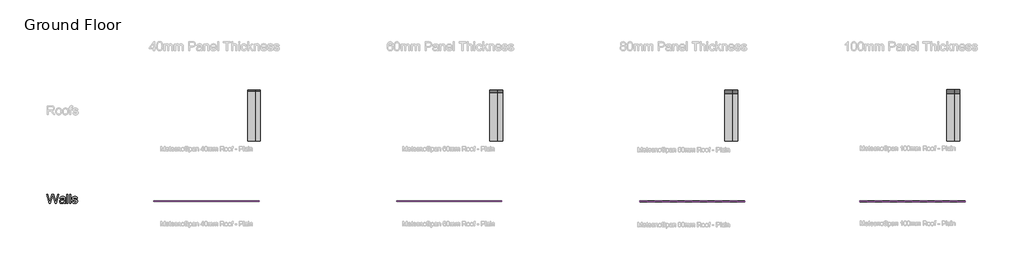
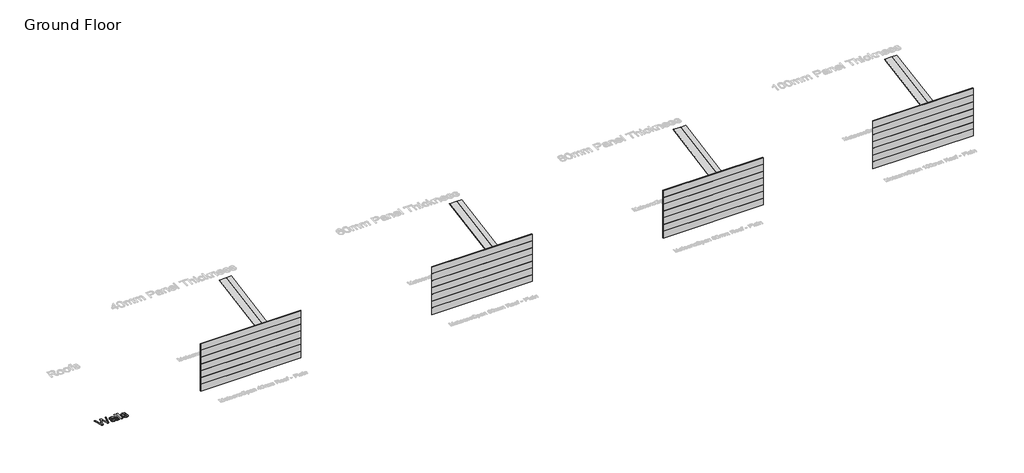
# One storey, part 1 of 14: 36 plates, 1 proxy.
"""IFC4 building model written with IfcOpenShell, lengths in millimetres."""

from ifc_helpers import new_model, si_unit, origin, origin_with_axes, place, context, project, spatial, polyline, outline, extrude, transform, mapped, element, save
from components import system_panel_feab0dc7, system_panel_a265e2d0, system_panel_77eb090d, system_panel_3f59478d, system_panel_bf3a755d, system_panel_f6465c84, system_panel_ab85e6cc, system_panel_8b37a0bf, system_panel_d7c5dccb, system_panel_d82ac72a, system_panel_2c778e41, system_panel_568c220c

model = new_model("IFC4")

# Units and contexts
model_context = context("Model", 3, world=origin())
ifc_project = project(units=[si_unit("LENGTHUNIT", "METRE", prefix="MILLI")], contexts=[model_context])

# Site, building, storey
site = spatial("IfcSite", under=ifc_project)
building = spatial("IfcBuilding", under=site)
storey = spatial("IfcBuildingStorey", under=building, Name="Ground Floor", Elevation=0.0)

# Proxy
placement = place(None, origin())
element("IfcBuildingElementProxy", 1, Name="1200mm Arial", ObjectType="1200mm Arial", at=placement, inside=storey, context=model_context, shape_type="SweptSolid", body=[
    extrude(outline(polyline([(-35465.9511173, -12241.0070776), (-35794.6904682, -11035.5313559), (-35639.2971135, -11035.5313559), (-35448.5870872, -11827.8020207), (-35389.7259679, -12072.3699711), (-35326.7445703, -11856.0553579), (-35087.7684263, -11035.5313559), (-34863.8018676, -11035.5313559), (-34690.1615659, -11630.3229657), (-34650.5222809, -11740.6139878), (-34615.7758265, -11851.0521628), (-34585.9222026, -11961.6374905), (-34560.9614092, -12072.3699711), (-34503.8661235, -11834.865355), (-34311.3902637, -11035.5313559), (-34155.9969089, -11035.5313559), (-34485.0305654, -12241.0070776), (-34646.0157265, -12241.0070776), (-34935.0238219, -11311.0013938), (-34975.3436886, -11181.2126259), (-35020.6667504, -11337.4888975), (-35284.0702589, -12241.0070776), (-35465.9511173, -12241.0070776)])), origin_with_axes(), (0.0, 0.0, 1.0), 20.0),
    extrude(outline(polyline([(-33459.0812572, -12127.9937287), (-33494.811796, -12161.5261726), (-33531.0757637, -12189.7243275), (-33567.8731603, -12212.5881935), (-33605.2039857, -12230.1177706), (-33643.4913044, -12243.1223991), (-33683.1581805, -12252.4114195), (-33724.2046141, -12257.9848317), (-33766.6306052, -12259.8426358), (-33833.7230841, -12255.3728696), (-33892.5566122, -12241.9635708), (-33943.1311894, -12219.6147396), (-33985.4468159, -12188.3263759), (-34018.8596981, -12150.0850425), (-34042.7260426, -12106.8773022), (-34057.0458492, -12058.7031549), (-34061.8191181, -12005.5626007), (-34060.0164964, -11973.6120495), (-34054.608631, -11943.096238), (-34045.5955221, -11914.0151662), (-34032.9771697, -11886.3688343), (-34017.4249584, -11860.7642474), (-33999.6102727, -11837.8084109), (-33979.5331129, -11817.5013248), (-33957.1934787, -11799.842989), (-33907.3454684, -11771.1481934), (-33851.6849225, -11750.3996489), (-33797.4591164, -11738.8481542), (-33721.3075434, -11727.738118), (-33567.2385638, -11703.8993647), (-33507.7520452, -11690.4348837), (-33459.964174, -11675.9403331), (-33459.0812572, -11642.3894951), (-33461.6748253, -11605.858813), (-33469.4555295, -11575.1406664), (-33482.4233698, -11550.2350553), (-33500.5783463, -11531.1419798), (-33531.9586805, -11512.0856924), (-33570.1816198, -11498.4740586), (-33615.2471642, -11490.3070783), (-33667.1553137, -11487.5847515), (-33715.4214315, -11489.3965704), (-33756.9185205, -11494.8320268), (-33791.6465809, -11503.891121), (-33819.6056125, -11516.5738527), (-33842.5798431, -11533.8735036), (-33862.3535003, -11556.7833548), (-33878.9265842, -11585.3034065), (-33892.2990948, -11619.4336586), (-34042.98356, -11600.5981004), (-34031.5148388, -11557.188025), (-34016.8271501, -11518.1925335), (-33998.920494, -11483.611626), (-33977.7948704, -11453.4453024), (-33952.5397715, -11427.0865574), (-33922.2446892, -11403.9283858), (-33886.9096235, -11383.9707876), (-33846.5345746, -11367.2137627), (-33801.9380797, -11353.9516168), (-33753.9386764, -11344.4786554), (-33702.5363646, -11338.7948786), (-33647.7311444, -11336.9002863), (-33594.1583288, -11338.5741494), (-33545.8646199, -11343.5957386), (-33502.8500176, -11351.965054), (-33465.114522, -11363.6820955), (-33432.3454332, -11377.9283258), (-33404.2300518, -11393.8852074), (-33380.7683775, -11411.5527402), (-33361.9604105, -11430.9309243), (-33346.7117018, -11452.4980062), (-33333.9278025, -11476.7322327), (-33315.7544319, -11533.2021189), (-33310.236202, -11585.2942094), (-33308.396792, -11665.051026), (-33308.396792, -11852.5236907), (-33306.4838056, -12015.8265084), (-33300.7448465, -12114.3085185), (-33289.4140811, -12179.0189615), (-33270.7256757, -12241.0070776), (-33421.4101409, -12241.0070776), (-33434.8010456, -12215.8439492), (-33445.5431998, -12188.6206815), (-33459.0812572, -12127.9937287)]), holes=[polyline([(-33459.0812572, -11826.6247983), (-33504.6250482, -11839.666215), (-33560.3223823, -11851.7143504), (-33702.1776796, -11872.8307769), (-33780.3526036, -11884.3822715), (-33831.8192947, -11897.2581414), (-33865.5540737, -11913.9599839), (-33890.5332612, -11936.9893968), (-33905.984305, -11964.5805465), (-33911.1346529, -11994.9675993), (-33908.3295527, -12018.3832883), (-33899.9142521, -12039.7756263), (-33885.888751, -12059.1446133), (-33866.2530495, -12076.4902494), (-33841.1910886, -12090.7824649), (-33810.8868092, -12100.9911903), (-33775.3402114, -12107.1164255), (-33734.5512952, -12109.1581706), (-33692.9070534, -12106.9048934), (-33653.6172563, -12100.1450617), (-33616.681904, -12088.8786756), (-33582.1009964, -12073.105735), (-33550.9046032, -12054.1322211), (-33524.122794, -12033.264115), (-33501.7555687, -12010.5014165), (-33483.8029273, -11985.8441258), (-33473.3734727, -11963.7712061), (-33465.9238623, -11936.9893968), (-33461.4540961, -11905.498698), (-33459.964174, -11869.2991097), (-33459.0812572, -11826.6247983)])]), origin_with_axes(), (0.0, 0.0, 1.0), 20.0),
    extrude(outline(polyline([(-33101.2056523, -12241.0070776), (-33101.2056523, -11035.5313559), (-32950.5211871, -11035.5313559), (-32950.5211871, -12241.0070776), (-33101.2056523, -12241.0070776)])), origin_with_axes(), (0.0, 0.0, 1.0), 20.0),
    extrude(outline(polyline([(-32724.4944893, -12241.0070776), (-32724.4944893, -11035.5313559), (-32573.810024, -11035.5313559), (-32573.810024, -12241.0070776), (-32724.4944893, -12241.0070776)])), origin_with_axes(), (0.0, 0.0, 1.0), 20.0),
    extrude(outline(polyline([(-32404.2900007, -11977.3092635), (-32253.6055354, -11958.4737054), (-32244.5004561, -11992.8338837), (-32229.8403586, -12022.9266309), (-32209.6252429, -12048.751947), (-32183.8551092, -12070.3098319), (-32152.4563809, -12087.3059801), (-32115.3554817, -12099.4460859), (-32072.5524115, -12106.7301494), (-32024.0471705, -12109.1581706), (-31975.5971117, -12106.9324845), (-31933.8425052, -12100.2554263), (-31898.7833511, -12089.1269959), (-31870.4196493, -12073.5471934), (-31848.5306706, -12054.9691527), (-31832.8956858, -12034.8460075), (-31823.5146949, -12013.177758), (-31820.3876979, -11989.9644041), (-31823.533089, -11969.6205298), (-31832.9692622, -11951.5575238), (-31848.6962174, -11935.7753862), (-31870.7139549, -11922.274117), (-31927.1470529, -11903.1442533), (-32025.813004, -11879.3055), (-32163.3272938, -11839.5374563), (-32252.7226187, -11805.5819482), (-32283.4131741, -11788.5582088), (-32310.1489981, -11768.5362312), (-32332.9300907, -11745.5160154), (-32351.7564518, -11719.4975613), (-32366.4993227, -11691.2626182), (-32377.0299448, -11661.5929352), (-32383.3483181, -11630.4885126), (-32385.4544425, -11597.9493501), (-32383.7621853, -11568.1968937), (-32378.6854138, -11539.5664774), (-32370.2241279, -11512.0581013), (-32358.3783277, -11485.6717651), (-32343.6078656, -11460.940898), (-32326.3725941, -11438.3989288), (-32306.6725132, -11418.0458574), (-32284.507623, -11399.8816839), (-32242.9001694, -11375.6382604), (-32188.7111515, -11355.2943861), (-32126.0608477, -11341.4988112), (-32059.0695364, -11336.9002863), (-32008.4305798, -11338.7488933), (-31960.9921965, -11344.2947144), (-31916.7543866, -11353.5377495), (-31875.71715, -11366.4779987), (-31838.8553741, -11382.572836), (-31807.1439461, -11401.2796355), (-31780.582866, -11422.5983971), (-31759.1721339, -11446.5291209), (-31741.8081038, -11473.9087384), (-31727.3871295, -11505.5741811), (-31715.9092113, -11541.5254491), (-31707.374349, -11581.7625423), (-31858.0588142, -11600.5981004), (-31865.2417102, -11575.4257749), (-31877.0783134, -11553.1781113), (-31893.5686238, -11533.8551095), (-31914.7126415, -11517.4567695), (-31940.6023369, -11504.3877617), (-31971.3296805, -11495.052756), (-32006.8946724, -11489.4517526), (-32047.2973125, -11487.5847515), (-32094.1654787, -11489.3689792), (-32133.8231578, -11494.7216622), (-32166.2703498, -11503.6428006), (-32191.5070547, -11516.1323943), (-32210.4345833, -11530.994827), (-32223.9542466, -11547.0344819), (-32232.0660446, -11564.2513593), (-32234.7699773, -11582.6454591), (-32230.2818169, -11605.8220248), (-32216.8173359, -11626.4969929), (-32193.787923, -11644.9646691), (-32160.6049671, -11659.7535253), (-32030.8161992, -11691.8328352), (-31897.6797051, -11731.1962087), (-31809.6455437, -11762.7604839), (-31778.6698797, -11778.1563454), (-31751.2258828, -11796.6792039), (-31727.3135531, -11818.3290593), (-31706.9328906, -11843.1059117), (-31690.6449153, -11871.0465492), (-31679.0106472, -11902.1877601), (-31672.0300863, -11936.5295443), (-31669.7032327, -11974.0719019), (-31672.4347565, -12011.7798065), (-31680.629328, -12048.384065), (-31694.286947, -12083.8846775), (-31713.4076137, -12118.2816441), (-31737.6786284, -12150.2046042), (-31766.7872912, -12178.2831975), (-31800.7336023, -12202.5174239), (-31839.5175617, -12222.9072835), (-31882.0815085, -12239.0665001), (-31927.3677821, -12250.6087977), (-31975.3763825, -12257.5341763), (-32026.1073096, -12259.8426358), (-32107.2068955, -12255.3912637), (-32178.0425736, -12242.0371472), (-32238.6143441, -12219.7802865), (-32265.051264, -12205.3133271), (-32288.922207, -12188.6206815), (-32330.0146258, -12148.7054851), (-32362.9400644, -12100.1818499), (-32387.6985227, -12043.049776), (-32404.2900007, -11977.3092635)])), origin_with_axes(), (0.0, 0.0, 1.0), 20.0),
])

# Plates
system_panel_shape = system_panel_feab0dc7(model_context)
element("IfcPlate", 2, ObjectType="System Panel : MetecnoSpan_40mm_Vertical_Plain_Surfmist", at=placement, inside=storey, context=model_context, shape_type="MappedRepresentation", body=[
    mapped(system_panel_shape, transform((-8530.7129304, -3930.7641433, 0.0), x_axis=(1.0, 0.0, 0.0), y_axis=(0.0, 0.17364817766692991, -0.9848077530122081), z_axis=(0.0, 0.9848077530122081, 0.17364817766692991))),
])
system_panel_2_shape = system_panel_a265e2d0(model_context)
element("IfcPlate", 3, ObjectType="System Panel : MetecnoSpan_40mm_Vertical_Plain_Surfmist", at=placement, inside=storey, context=model_context, shape_type="MappedRepresentation", body=[
    mapped(system_panel_2_shape, transform((-7680.7129304, -3930.7641433, 0.0), x_axis=(1.0, 0.0, 0.0), y_axis=(0.0, 0.17364817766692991, -0.9848077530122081), z_axis=(0.0, 0.9848077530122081, 0.17364817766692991))),
])
system_panel_3_shape = system_panel_77eb090d(model_context)
element("IfcPlate", 4, ObjectType="System Panel : MetecnoSpan_60mm_Vertical_Plain_Surfmist", at=placement, inside=storey, context=model_context, shape_type="MappedRepresentation", body=[
    mapped(system_panel_3_shape, transform((23669.2870696, -3930.7641433, 0.0), x_axis=(1.0, 0.0, 0.0), y_axis=(0.0, 0.17364817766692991, -0.9848077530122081), z_axis=(0.0, 0.9848077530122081, 0.17364817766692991))),
])
system_panel_4_shape = system_panel_3f59478d(model_context)
element("IfcPlate", 5, ObjectType="System Panel : MetecnoSpan_60mm_Vertical_Plain_Surfmist", at=placement, inside=storey, context=model_context, shape_type="MappedRepresentation", body=[
    mapped(system_panel_4_shape, transform((24519.2870696, -3930.7641433, 0.0), x_axis=(1.0, 0.0, 0.0), y_axis=(0.0, 0.17364817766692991, -0.9848077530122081), z_axis=(0.0, 0.9848077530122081, 0.17364817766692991))),
])
system_panel_5_shape = system_panel_bf3a755d(model_context)
element("IfcPlate", 6, ObjectType="System Panel : MetecnoSpan_80mm_Vertical_Plain_Surfmist", at=placement, inside=storey, context=model_context, shape_type="MappedRepresentation", body=[
    mapped(system_panel_5_shape, transform((54943.9173327, -3941.183034, 0.0), x_axis=(1.0, 0.0, 0.0), y_axis=(0.0, 0.17364817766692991, -0.9848077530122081), z_axis=(0.0, 0.9848077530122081, 0.17364817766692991))),
])
system_panel_6_shape = system_panel_f6465c84(model_context)
element("IfcPlate", 7, ObjectType="System Panel : MetecnoSpan_80mm_Vertical_Plain_Surfmist", at=placement, inside=storey, context=model_context, shape_type="MappedRepresentation", body=[
    mapped(system_panel_6_shape, transform((55793.9173327, -3941.183034, 0.0), x_axis=(1.0, 0.0, 0.0), y_axis=(0.0, 0.17364817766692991, -0.9848077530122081), z_axis=(0.0, 0.9848077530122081, 0.17364817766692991))),
])
system_panel_7_shape = system_panel_ab85e6cc(model_context)
element("IfcPlate", 8, ObjectType="System Panel : MetecnoSpan_100mm_Vertical_Plain_Surfmist", at=placement, inside=storey, context=model_context, shape_type="MappedRepresentation", body=[
    mapped(system_panel_7_shape, transform((84493.0607167, -3923.8182162, 0.0), x_axis=(1.0, 0.0, 0.0), y_axis=(0.0, 0.17364817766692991, -0.9848077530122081), z_axis=(0.0, 0.9848077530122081, 0.17364817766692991))),
])
system_panel_8_shape = system_panel_8b37a0bf(model_context)
element("IfcPlate", 9, ObjectType="System Panel : MetecnoSpan_100mm_Vertical_Plain_Surfmist", at=placement, inside=storey, context=model_context, shape_type="MappedRepresentation", body=[
    mapped(system_panel_8_shape, transform((85343.0607167, -3923.8182162, 0.0), x_axis=(1.0, 0.0, 0.0), y_axis=(0.0, 0.17364817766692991, -0.9848077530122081), z_axis=(0.0, 0.9848077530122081, 0.17364817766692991))),
])
system_panel_9_shape = system_panel_d7c5dccb(model_context)
element("IfcPlate", 10, ObjectType="System Panel : MetecnoSpan_40mm_Horizontal_Plain_Surfmist", at=placement, inside=storey, context=model_context, shape_type="MappedRepresentation", body=[
    mapped(system_panel_9_shape, transform((-14510.6275612, -11941.183034, 0.0), x_axis=(1.0, 0.0, 0.0), y_axis=(0.0, 1.0, 0.0), z_axis=(0.0, 0.0, 1.0))),
])
element("IfcPlate", 11, ObjectType="System Panel : MetecnoSpan_40mm_Horizontal_Plain_Surfmist", at=placement, inside=storey, context=model_context, shape_type="MappedRepresentation", body=[
    mapped(system_panel_9_shape, transform((-14510.6275612, -11941.183034, 1000.0), x_axis=(1.0, 0.0, 0.0), y_axis=(0.0, 1.0, 0.0), z_axis=(0.0, 0.0, 1.0))),
])
element("IfcPlate", 12, ObjectType="System Panel : MetecnoSpan_40mm_Horizontal_Plain_Surfmist", at=placement, inside=storey, context=model_context, shape_type="MappedRepresentation", body=[
    mapped(system_panel_9_shape, transform((-14510.6275612, -11941.183034, 2000.0), x_axis=(1.0, 0.0, 0.0), y_axis=(0.0, 1.0, 0.0), z_axis=(0.0, 0.0, 1.0))),
])
element("IfcPlate", 13, ObjectType="System Panel : MetecnoSpan_40mm_Horizontal_Plain_Surfmist", at=placement, inside=storey, context=model_context, shape_type="MappedRepresentation", body=[
    mapped(system_panel_9_shape, transform((-14510.6275612, -11941.183034, 3000.0), x_axis=(1.0, 0.0, 0.0), y_axis=(0.0, 1.0, 0.0), z_axis=(0.0, 0.0, 1.0))),
])
element("IfcPlate", 14, ObjectType="System Panel : MetecnoSpan_40mm_Horizontal_Plain_Surfmist", at=placement, inside=storey, context=model_context, shape_type="MappedRepresentation", body=[
    mapped(system_panel_9_shape, transform((-14510.6275612, -11941.183034, 4000.0), x_axis=(1.0, 0.0, 0.0), y_axis=(0.0, 1.0, 0.0), z_axis=(0.0, 0.0, 1.0))),
])
element("IfcPlate", 15, ObjectType="System Panel : MetecnoSpan_40mm_Horizontal_Plain_Surfmist", at=placement, inside=storey, context=model_context, shape_type="MappedRepresentation", body=[
    mapped(system_panel_9_shape, transform((-14510.6275612, -11941.183034, 5000.0), x_axis=(1.0, 0.0, 0.0), y_axis=(0.0, 1.0, 0.0), z_axis=(0.0, 0.0, 1.0))),
])
element("IfcPlate", 16, ObjectType="System Panel : MetecnoSpan_40mm_Horizontal_Plain_Surfmist", at=placement, inside=storey, context=model_context, shape_type="MappedRepresentation", body=[
    mapped(system_panel_9_shape, transform((-14510.6275612, -11941.183034, 6000.0), x_axis=(1.0, 0.0, 0.0), y_axis=(0.0, 1.0, 0.0), z_axis=(0.0, 0.0, 1.0))),
])
system_panel_10_shape = system_panel_d82ac72a(model_context)
element("IfcPlate", 17, ObjectType="System Panel : MetecnoSpan_100mm_Horizontal_Plain_Surfmist", at=placement, inside=storey, context=model_context, shape_type="MappedRepresentation", body=[
    mapped(system_panel_10_shape, transform((79403.7724388, -11941.183034, 0.0), x_axis=(1.0, 0.0, 0.0), y_axis=(0.0, 1.0, 0.0), z_axis=(0.0, 0.0, 1.0))),
])
element("IfcPlate", 18, ObjectType="System Panel : MetecnoSpan_100mm_Horizontal_Plain_Surfmist", at=placement, inside=storey, context=model_context, shape_type="MappedRepresentation", body=[
    mapped(system_panel_10_shape, transform((79403.7724388, -11941.183034, 1000.0), x_axis=(1.0, 0.0, 0.0), y_axis=(0.0, 1.0, 0.0), z_axis=(0.0, 0.0, 1.0))),
])
element("IfcPlate", 19, ObjectType="System Panel : MetecnoSpan_100mm_Horizontal_Plain_Surfmist", at=placement, inside=storey, context=model_context, shape_type="MappedRepresentation", body=[
    mapped(system_panel_10_shape, transform((79403.7724388, -11941.183034, 2000.0), x_axis=(1.0, 0.0, 0.0), y_axis=(0.0, 1.0, 0.0), z_axis=(0.0, 0.0, 1.0))),
])
element("IfcPlate", 20, ObjectType="System Panel : MetecnoSpan_100mm_Horizontal_Plain_Surfmist", at=placement, inside=storey, context=model_context, shape_type="MappedRepresentation", body=[
    mapped(system_panel_10_shape, transform((79403.7724388, -11941.183034, 3000.0), x_axis=(1.0, 0.0, 0.0), y_axis=(0.0, 1.0, 0.0), z_axis=(0.0, 0.0, 1.0))),
])
element("IfcPlate", 21, ObjectType="System Panel : MetecnoSpan_100mm_Horizontal_Plain_Surfmist", at=placement, inside=storey, context=model_context, shape_type="MappedRepresentation", body=[
    mapped(system_panel_10_shape, transform((79403.7724388, -11941.183034, 4000.0), x_axis=(1.0, 0.0, 0.0), y_axis=(0.0, 1.0, 0.0), z_axis=(0.0, 0.0, 1.0))),
])
element("IfcPlate", 22, ObjectType="System Panel : MetecnoSpan_100mm_Horizontal_Plain_Surfmist", at=placement, inside=storey, context=model_context, shape_type="MappedRepresentation", body=[
    mapped(system_panel_10_shape, transform((79403.7724388, -11941.183034, 5000.0), x_axis=(1.0, 0.0, 0.0), y_axis=(0.0, 1.0, 0.0), z_axis=(0.0, 0.0, 1.0))),
])
element("IfcPlate", 23, ObjectType="System Panel : MetecnoSpan_100mm_Horizontal_Plain_Surfmist", at=placement, inside=storey, context=model_context, shape_type="MappedRepresentation", body=[
    mapped(system_panel_10_shape, transform((79403.7724388, -11941.183034, 6000.0), x_axis=(1.0, 0.0, 0.0), y_axis=(0.0, 1.0, 0.0), z_axis=(0.0, 0.0, 1.0))),
])
system_panel_11_shape = system_panel_2c778e41(model_context)
element("IfcPlate", 24, ObjectType="System Panel : MetecnoSpan_80mm_Horizontal_Plain_Surfmist", at=placement, inside=storey, context=model_context, shape_type="MappedRepresentation", body=[
    mapped(system_panel_11_shape, transform((50098.9724388, -11941.183034, 0.0), x_axis=(1.0, 0.0, 0.0), y_axis=(0.0, 1.0, 0.0), z_axis=(0.0, 0.0, 1.0))),
])
element("IfcPlate", 25, ObjectType="System Panel : MetecnoSpan_80mm_Horizontal_Plain_Surfmist", at=placement, inside=storey, context=model_context, shape_type="MappedRepresentation", body=[
    mapped(system_panel_11_shape, transform((50098.9724388, -11941.183034, 1000.0), x_axis=(1.0, 0.0, 0.0), y_axis=(0.0, 1.0, 0.0), z_axis=(0.0, 0.0, 1.0))),
])
element("IfcPlate", 26, ObjectType="System Panel : MetecnoSpan_80mm_Horizontal_Plain_Surfmist", at=placement, inside=storey, context=model_context, shape_type="MappedRepresentation", body=[
    mapped(system_panel_11_shape, transform((50098.9724388, -11941.183034, 2000.0), x_axis=(1.0, 0.0, 0.0), y_axis=(0.0, 1.0, 0.0), z_axis=(0.0, 0.0, 1.0))),
])
element("IfcPlate", 27, ObjectType="System Panel : MetecnoSpan_80mm_Horizontal_Plain_Surfmist", at=placement, inside=storey, context=model_context, shape_type="MappedRepresentation", body=[
    mapped(system_panel_11_shape, transform((50098.9724388, -11941.183034, 3000.0), x_axis=(1.0, 0.0, 0.0), y_axis=(0.0, 1.0, 0.0), z_axis=(0.0, 0.0, 1.0))),
])
element("IfcPlate", 28, ObjectType="System Panel : MetecnoSpan_80mm_Horizontal_Plain_Surfmist", at=placement, inside=storey, context=model_context, shape_type="MappedRepresentation", body=[
    mapped(system_panel_11_shape, transform((50098.9724388, -11941.183034, 4000.0), x_axis=(1.0, 0.0, 0.0), y_axis=(0.0, 1.0, 0.0), z_axis=(0.0, 0.0, 1.0))),
])
element("IfcPlate", 29, ObjectType="System Panel : MetecnoSpan_80mm_Horizontal_Plain_Surfmist", at=placement, inside=storey, context=model_context, shape_type="MappedRepresentation", body=[
    mapped(system_panel_11_shape, transform((50098.9724388, -11941.183034, 5000.0), x_axis=(1.0, 0.0, 0.0), y_axis=(0.0, 1.0, 0.0), z_axis=(0.0, 0.0, 1.0))),
])
element("IfcPlate", 30, ObjectType="System Panel : MetecnoSpan_80mm_Horizontal_Plain_Surfmist", at=placement, inside=storey, context=model_context, shape_type="MappedRepresentation", body=[
    mapped(system_panel_11_shape, transform((50098.9724388, -11941.183034, 6000.0), x_axis=(1.0, 0.0, 0.0), y_axis=(0.0, 1.0, 0.0), z_axis=(0.0, 0.0, 1.0))),
])
system_panel_12_shape = system_panel_568c220c(model_context)
element("IfcPlate", 31, ObjectType="System Panel : MetecnoSpan_60mm_Horizontal_Plain_Surfmist", at=placement, inside=storey, context=model_context, shape_type="MappedRepresentation", body=[
    mapped(system_panel_12_shape, transform((17794.1724388, -11941.183034, 0.0), x_axis=(1.0, 0.0, 0.0), y_axis=(0.0, 1.0, 0.0), z_axis=(0.0, 0.0, 1.0))),
])
element("IfcPlate", 32, ObjectType="System Panel : MetecnoSpan_60mm_Horizontal_Plain_Surfmist", at=placement, inside=storey, context=model_context, shape_type="MappedRepresentation", body=[
    mapped(system_panel_12_shape, transform((17794.1724388, -11941.183034, 1000.0), x_axis=(1.0, 0.0, 0.0), y_axis=(0.0, 1.0, 0.0), z_axis=(0.0, 0.0, 1.0))),
])
element("IfcPlate", 33, ObjectType="System Panel : MetecnoSpan_60mm_Horizontal_Plain_Surfmist", at=placement, inside=storey, context=model_context, shape_type="MappedRepresentation", body=[
    mapped(system_panel_12_shape, transform((17794.1724388, -11941.183034, 2000.0), x_axis=(1.0, 0.0, 0.0), y_axis=(0.0, 1.0, 0.0), z_axis=(0.0, 0.0, 1.0))),
])
element("IfcPlate", 34, ObjectType="System Panel : MetecnoSpan_60mm_Horizontal_Plain_Surfmist", at=placement, inside=storey, context=model_context, shape_type="MappedRepresentation", body=[
    mapped(system_panel_12_shape, transform((17794.1724388, -11941.183034, 3000.0), x_axis=(1.0, 0.0, 0.0), y_axis=(0.0, 1.0, 0.0), z_axis=(0.0, 0.0, 1.0))),
])
element("IfcPlate", 35, ObjectType="System Panel : MetecnoSpan_60mm_Horizontal_Plain_Surfmist", at=placement, inside=storey, context=model_context, shape_type="MappedRepresentation", body=[
    mapped(system_panel_12_shape, transform((17794.1724388, -11941.183034, 4000.0), x_axis=(1.0, 0.0, 0.0), y_axis=(0.0, 1.0, 0.0), z_axis=(0.0, 0.0, 1.0))),
])
element("IfcPlate", 36, ObjectType="System Panel : MetecnoSpan_60mm_Horizontal_Plain_Surfmist", at=placement, inside=storey, context=model_context, shape_type="MappedRepresentation", body=[
    mapped(system_panel_12_shape, transform((17794.1724388, -11941.183034, 5000.0), x_axis=(1.0, 0.0, 0.0), y_axis=(0.0, 1.0, 0.0), z_axis=(0.0, 0.0, 1.0))),
])
element("IfcPlate", 37, ObjectType="System Panel : MetecnoSpan_60mm_Horizontal_Plain_Surfmist", at=placement, inside=storey, context=model_context, shape_type="MappedRepresentation", body=[
    mapped(system_panel_12_shape, transform((17794.1724388, -11941.183034, 6000.0), x_axis=(1.0, 0.0, 0.0), y_axis=(0.0, 1.0, 0.0), z_axis=(0.0, 0.0, 1.0))),
])

save(model, "model.ifc")
